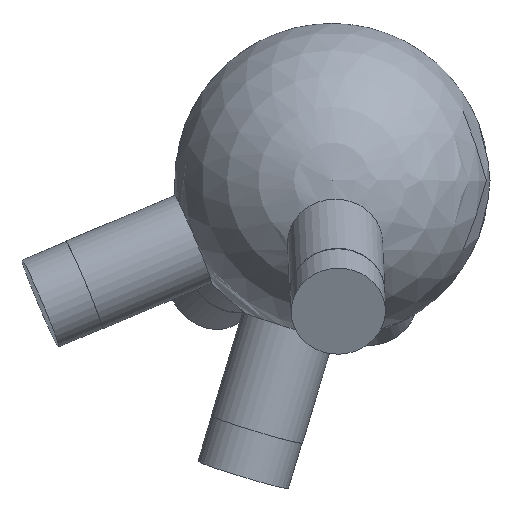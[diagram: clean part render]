
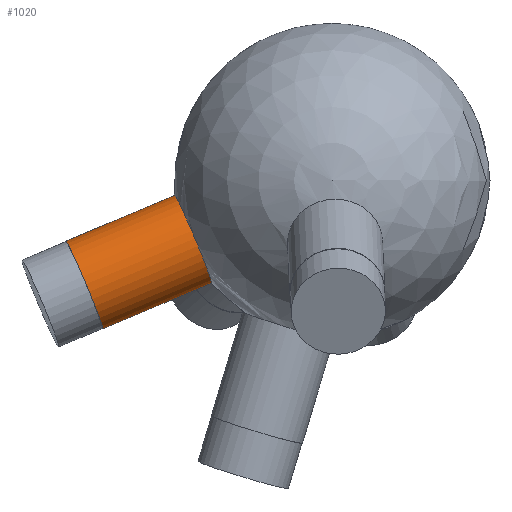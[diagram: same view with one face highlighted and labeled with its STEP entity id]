
A CAD part, top view. The second image highlights one B-rep face of the part: STEP entity #1020.
In plain terms, the highlighted cylindrical face has radius 6 mm (diameter 12 mm), a full revolution.
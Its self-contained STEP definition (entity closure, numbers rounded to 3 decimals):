
#35 = SPHERICAL_SURFACE('',#36,20.);
#36 = AXIS2_PLACEMENT_3D('',#37,#38,#39);
#37 = CARTESIAN_POINT('',(0.,0.,0.));
#38 = DIRECTION('',(0.,0.,1.));
#39 = DIRECTION('',(1.,0.,-0.));
#570 = EDGE_CURVE('',#571,#571,#573,.T.);
#571 = VERTEX_POINT('',#572);
#572 = CARTESIAN_POINT('',(-15.236,-12.927,
    0.872));
#573 = SURFACE_CURVE('',#574,(#579,#641),.PCURVE_S1.);
#574 = CIRCLE('',#575,6.);
#575 = AXIS2_PLACEMENT_3D('',#576,#577,#578);
#576 = CARTESIAN_POINT('',(-17.565,-7.397,
    0.872));
#577 = DIRECTION('',(-0.921,-0.388,0.046)
  );
#578 = DIRECTION('',(0.388,-0.922,0.)
  );
#579 = PCURVE('',#35,#580);
#580 = DEFINITIONAL_REPRESENTATION('',(#581),#640);
#581 = B_SPLINE_CURVE_WITH_KNOTS('',8,(#582,#583,#584,#585,#586,#587,
    #588,#589,#590,#591,#592,#593,#594,#595,#596,#597,#598,#599,#600,
    #601,#602,#603,#604,#605,#606,#607,#608,#609,#610,#611,#612,#613,
    #614,#615,#616,#617,#618,#619,#620,#621,#622,#623,#624,#625,#626,
    #627,#628,#629,#630,#631,#632,#633,#634,#635,#636,#637,#638,#639),
  .UNSPECIFIED.,.F.,.F.,(9,7,7,7,7,7,7,7,9),(0.,0.785,
    1.473,2.074,3.126,3.915,
    4.507,5.395,6.283),.UNSPECIFIED.);
#582 = CARTESIAN_POINT('',(3.845,0.044));
#583 = CARTESIAN_POINT('',(3.846,0.073));
#584 = CARTESIAN_POINT('',(3.843,0.103));
#585 = CARTESIAN_POINT('',(3.837,0.132));
#586 = CARTESIAN_POINT('',(3.828,0.16));
#587 = CARTESIAN_POINT('',(3.816,0.187));
#588 = CARTESIAN_POINT('',(3.8,0.213));
#589 = CARTESIAN_POINT('',(3.782,0.237));
#590 = CARTESIAN_POINT('',(3.743,0.277));
#591 = CARTESIAN_POINT('',(3.723,0.294));
#592 = CARTESIAN_POINT('',(3.701,0.309));
#593 = CARTESIAN_POINT('',(3.677,0.322));
#594 = CARTESIAN_POINT('',(3.652,0.333));
#595 = CARTESIAN_POINT('',(3.626,0.341));
#596 = CARTESIAN_POINT('',(3.599,0.346));
#597 = CARTESIAN_POINT('',(3.548,0.351));
#598 = CARTESIAN_POINT('',(3.524,0.352));
#599 = CARTESIAN_POINT('',(3.499,0.35));
#600 = CARTESIAN_POINT('',(3.476,0.346));
#601 = CARTESIAN_POINT('',(3.452,0.34));
#602 = CARTESIAN_POINT('',(3.43,0.332));
#603 = CARTESIAN_POINT('',(3.408,0.323));
#604 = CARTESIAN_POINT('',(3.352,0.291));
#605 = CARTESIAN_POINT('',(3.32,0.266));
#606 = CARTESIAN_POINT('',(3.292,0.236));
#607 = CARTESIAN_POINT('',(3.269,0.202));
#608 = CARTESIAN_POINT('',(3.252,0.166));
#609 = CARTESIAN_POINT('',(3.241,0.127));
#610 = CARTESIAN_POINT('',(3.235,0.088));
#611 = CARTESIAN_POINT('',(3.235,0.019));
#612 = CARTESIAN_POINT('',(3.238,-0.011));
#613 = CARTESIAN_POINT('',(3.245,-0.04));
#614 = CARTESIAN_POINT('',(3.254,-0.069));
#615 = CARTESIAN_POINT('',(3.267,-0.096));
#616 = CARTESIAN_POINT('',(3.282,-0.121));
#617 = CARTESIAN_POINT('',(3.3,-0.145));
#618 = CARTESIAN_POINT('',(3.336,-0.183));
#619 = CARTESIAN_POINT('',(3.353,-0.198));
#620 = CARTESIAN_POINT('',(3.372,-0.211));
#621 = CARTESIAN_POINT('',(3.391,-0.223));
#622 = CARTESIAN_POINT('',(3.411,-0.233));
#623 = CARTESIAN_POINT('',(3.433,-0.241));
#624 = CARTESIAN_POINT('',(3.455,-0.248));
#625 = CARTESIAN_POINT('',(3.511,-0.259));
#626 = CARTESIAN_POINT('',(3.545,-0.262));
#627 = CARTESIAN_POINT('',(3.58,-0.261));
#628 = CARTESIAN_POINT('',(3.615,-0.254));
#629 = CARTESIAN_POINT('',(3.648,-0.244));
#630 = CARTESIAN_POINT('',(3.679,-0.23));
#631 = CARTESIAN_POINT('',(3.708,-0.211));
#632 = CARTESIAN_POINT('',(3.76,-0.169));
#633 = CARTESIAN_POINT('',(3.783,-0.144));
#634 = CARTESIAN_POINT('',(3.803,-0.117));
#635 = CARTESIAN_POINT('',(3.819,-0.087));
#636 = CARTESIAN_POINT('',(3.832,-0.056));
#637 = CARTESIAN_POINT('',(3.84,-0.023));
#638 = CARTESIAN_POINT('',(3.845,0.01));
#639 = CARTESIAN_POINT('',(3.845,0.044));
#640 = ( GEOMETRIC_REPRESENTATION_CONTEXT(2) 
PARAMETRIC_REPRESENTATION_CONTEXT() REPRESENTATION_CONTEXT('2D SPACE',''
  ) );
#641 = PCURVE('',#642,#647);
#642 = CYLINDRICAL_SURFACE('',#643,6.);
#643 = AXIS2_PLACEMENT_3D('',#644,#645,#646);
#644 = CARTESIAN_POINT('',(0.,0.,0.));
#645 = DIRECTION('',(-0.921,-0.388,0.046)
  );
#646 = DIRECTION('',(0.388,-0.922,0.)
  );
#647 = DEFINITIONAL_REPRESENTATION('',(#648),#652);
#648 = LINE('',#649,#650);
#649 = CARTESIAN_POINT('',(0.,19.079));
#650 = VECTOR('',#651,1.);
#651 = DIRECTION('',(1.,0.));
#652 = ( GEOMETRIC_REPRESENTATION_CONTEXT(2) 
PARAMETRIC_REPRESENTATION_CONTEXT() REPRESENTATION_CONTEXT('2D SPACE',''
  ) );
#1020 = ADVANCED_FACE('',(#1021),#642,.T.);
#1021 = FACE_BOUND('',#1022,.T.);
#1022 = EDGE_LOOP('',(#1023,#1046,#1073,#1074));
#1023 = ORIENTED_EDGE('',*,*,#1024,.T.);
#1024 = EDGE_CURVE('',#571,#1025,#1027,.T.);
#1025 = VERTEX_POINT('',#1026);
#1026 = CARTESIAN_POINT('',(-28.973,-18.712,
    1.553));
#1027 = SEAM_CURVE('',#1028,(#1032,#1039),.PCURVE_S1.);
#1028 = LINE('',#1029,#1030);
#1029 = CARTESIAN_POINT('',(2.329,-5.53,
    0.));
#1030 = VECTOR('',#1031,1.);
#1031 = DIRECTION('',(-0.921,-0.388,0.046
    ));
#1032 = PCURVE('',#642,#1033);
#1033 = DEFINITIONAL_REPRESENTATION('',(#1034),#1038);
#1034 = LINE('',#1035,#1036);
#1035 = CARTESIAN_POINT('',(6.283,-0.));
#1036 = VECTOR('',#1037,1.);
#1037 = DIRECTION('',(0.,1.));
#1038 = ( GEOMETRIC_REPRESENTATION_CONTEXT(2) 
PARAMETRIC_REPRESENTATION_CONTEXT() REPRESENTATION_CONTEXT('2D SPACE',''
  ) );
#1039 = PCURVE('',#642,#1040);
#1040 = DEFINITIONAL_REPRESENTATION('',(#1041),#1045);
#1041 = LINE('',#1042,#1043);
#1042 = CARTESIAN_POINT('',(0.,-0.));
#1043 = VECTOR('',#1044,1.);
#1044 = DIRECTION('',(0.,1.));
#1045 = ( GEOMETRIC_REPRESENTATION_CONTEXT(2) 
PARAMETRIC_REPRESENTATION_CONTEXT() REPRESENTATION_CONTEXT('2D SPACE',''
  ) );
#1046 = ORIENTED_EDGE('',*,*,#1047,.F.);
#1047 = EDGE_CURVE('',#1025,#1025,#1048,.T.);
#1048 = SURFACE_CURVE('',#1049,(#1054,#1061),.PCURVE_S1.);
#1049 = CIRCLE('',#1050,6.);
#1050 = AXIS2_PLACEMENT_3D('',#1051,#1052,#1053);
#1051 = CARTESIAN_POINT('',(-31.302,-13.183,
    1.553));
#1052 = DIRECTION('',(-0.921,-0.388,0.046
    ));
#1053 = DIRECTION('',(0.388,-0.922,0.)
  );
#1054 = PCURVE('',#642,#1055);
#1055 = DEFINITIONAL_REPRESENTATION('',(#1056),#1060);
#1056 = LINE('',#1057,#1058);
#1057 = CARTESIAN_POINT('',(0.,34.));
#1058 = VECTOR('',#1059,1.);
#1059 = DIRECTION('',(1.,0.));
#1060 = ( GEOMETRIC_REPRESENTATION_CONTEXT(2) 
PARAMETRIC_REPRESENTATION_CONTEXT() REPRESENTATION_CONTEXT('2D SPACE',''
  ) );
#1061 = PCURVE('',#1062,#1067);
#1062 = PLANE('',#1063);
#1063 = AXIS2_PLACEMENT_3D('',#1064,#1065,#1066);
#1064 = CARTESIAN_POINT('',(-31.302,-13.183,
    1.553));
#1065 = DIRECTION('',(-0.921,-0.388,0.046
    ));
#1066 = DIRECTION('',(0.388,-0.922,0.)
  );
#1067 = DEFINITIONAL_REPRESENTATION('',(#1068),#1072);
#1068 = CIRCLE('',#1069,6.);
#1069 = AXIS2_PLACEMENT_2D('',#1070,#1071);
#1070 = CARTESIAN_POINT('',(0.,0.));
#1071 = DIRECTION('',(1.,0.));
#1072 = ( GEOMETRIC_REPRESENTATION_CONTEXT(2) 
PARAMETRIC_REPRESENTATION_CONTEXT() REPRESENTATION_CONTEXT('2D SPACE',''
  ) );
#1073 = ORIENTED_EDGE('',*,*,#1024,.F.);
#1074 = ORIENTED_EDGE('',*,*,#570,.T.);
